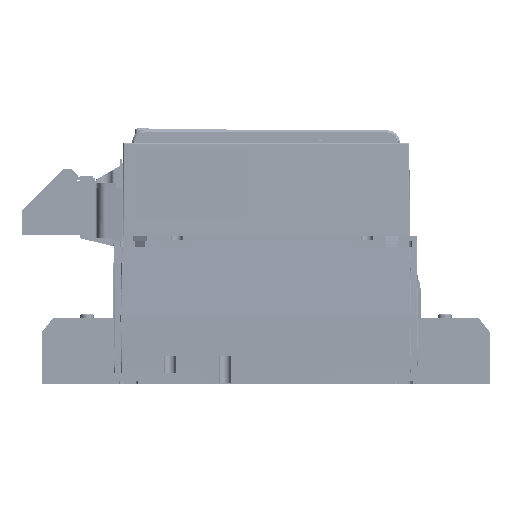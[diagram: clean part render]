
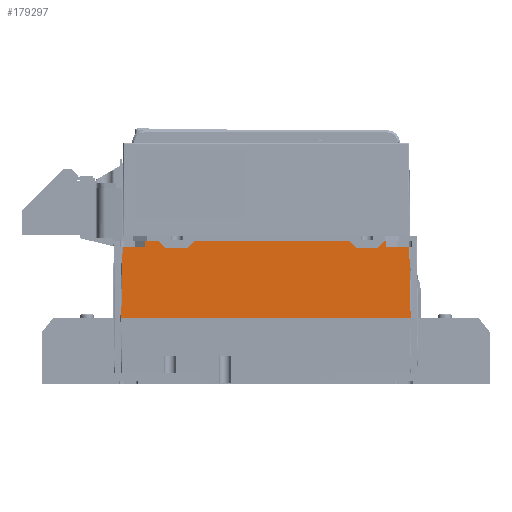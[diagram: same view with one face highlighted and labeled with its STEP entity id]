
A CAD part, front view. The second image highlights one B-rep face of the part: STEP entity #179297.
In plain terms, the highlighted planar face has unit normal (0, -1, 0.019).
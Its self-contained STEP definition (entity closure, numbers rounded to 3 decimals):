
#1234=DIRECTION('',(-1.,0.,0.));
#1235=VECTOR('',#1234,16.65);
#1236=CARTESIAN_POINT('',(201.9,-138.988,52.));
#1237=LINE('',#1236,#1235);
#9893=DIRECTION('',(1.,0.,0.));
#9894=VECTOR('',#9893,210.8);
#9895=CARTESIAN_POINT('',(-7.9,-140.,
0.));
#9896=LINE('',#9895,#9894);
#9897=DIRECTION('',(0.019,0.019,1.));
#9898=VECTOR('',#9897,52.019);
#9899=CARTESIAN_POINT('',(-7.9,-140.,
0.));
#9900=LINE('',#9899,#9898);
#9901=DIRECTION('',(0.019,-0.019,-1.));
#9902=VECTOR('',#9901,52.019);
#9903=CARTESIAN_POINT('',(201.9,-138.988,52.));
#9904=LINE('',#9903,#9902);
#10333=DIRECTION('',(-1.,0.,0.));
#10334=VECTOR('',#10333,16.65);
#10335=CARTESIAN_POINT('',(9.75,-138.988,52.));
#10336=LINE('',#10335,#10334);
#10393=DIRECTION('',(-1.,0.,0.));
#10394=VECTOR('',#10393,9.75);
#10395=CARTESIAN_POINT('',(19.5,-138.9,56.5));
#10396=LINE('',#10395,#10394);
#10481=DIRECTION('',(-1.,0.,0.));
#10482=VECTOR('',#10481,112.5);
#10483=CARTESIAN_POINT('',(158.,-138.9,56.5));
#10484=LINE('',#10483,#10482);
#10493=DIRECTION('',(-0.707,0.014,0.707));
#10494=VECTOR('',#10493,7.072);
#10495=CARTESIAN_POINT('',(163.,-138.997,51.5));
#10496=LINE('',#10495,#10494);
#10585=DIRECTION('',(-1.,0.,0.));
#10586=VECTOR('',#10585,16.);
#10587=CARTESIAN_POINT('',(179.,-138.997,51.5));
#10588=LINE('',#10587,#10586);
#10718=DIRECTION('',(-0.707,-0.014,-0.707));
#10719=VECTOR('',#10718,7.072);
#10720=CARTESIAN_POINT('',(184.,-138.9,56.5));
#10721=LINE('',#10720,#10719);
#10734=DIRECTION('',(-1.,0.,0.));
#10735=VECTOR('',#10734,1.25);
#10736=CARTESIAN_POINT('',(185.25,-138.9,56.5));
#10737=LINE('',#10736,#10735);
#11048=DIRECTION('',(0.,0.019,1.));
#11049=VECTOR('',#11048,4.501);
#11050=CARTESIAN_POINT('',(185.25,-138.988,52.));
#11051=LINE('',#11050,#11049);
#11556=DIRECTION('',(-0.707,-0.014,-0.707));
#11557=VECTOR('',#11556,7.072);
#11558=CARTESIAN_POINT('',(45.5,-138.9,56.5));
#11559=LINE('',#11558,#11557);
#11679=DIRECTION('',(-1.,0.,0.));
#11680=VECTOR('',#11679,16.);
#11681=CARTESIAN_POINT('',(40.5,-138.997,51.5));
#11682=LINE('',#11681,#11680);
#11889=DIRECTION('',(-0.707,0.014,0.707));
#11890=VECTOR('',#11889,7.072);
#11891=CARTESIAN_POINT('',(24.5,-138.997,51.5));
#11892=LINE('',#11891,#11890);
#12066=DIRECTION('',(0.,-0.019,-1.));
#12067=VECTOR('',#12066,4.501);
#12068=CARTESIAN_POINT('',(9.75,-138.9,56.5));
#12069=LINE('',#12068,#12067);
#130795=CARTESIAN_POINT('',(158.,-138.9,56.5));
#130796=CARTESIAN_POINT('',(45.5,-138.9,56.5));
#130797=VERTEX_POINT('',#130795);
#130798=VERTEX_POINT('',#130796);
#130808=CARTESIAN_POINT('',(185.25,-138.9,56.5));
#130810=VERTEX_POINT('',#130808);
#130811=CARTESIAN_POINT('',(184.,-138.9,56.5));
#130812=VERTEX_POINT('',#130811);
#130829=CARTESIAN_POINT('',(19.5,-138.9,56.5));
#130830=CARTESIAN_POINT('',(9.75,-138.9,56.5));
#130831=VERTEX_POINT('',#130829);
#130832=VERTEX_POINT('',#130830);
#130883=CARTESIAN_POINT('',(163.,-138.997,51.5));
#130884=VERTEX_POINT('',#130883);
#130887=CARTESIAN_POINT('',(9.75,-138.988,52.));
#130888=CARTESIAN_POINT('',(-6.9,-138.988,52.));
#130889=VERTEX_POINT('',#130887);
#130890=VERTEX_POINT('',#130888);
#130891=CARTESIAN_POINT('',(24.5,-138.997,51.5));
#130892=VERTEX_POINT('',#130891);
#130893=CARTESIAN_POINT('',(40.5,-138.997,51.5));
#130894=VERTEX_POINT('',#130893);
#130895=CARTESIAN_POINT('',(179.,-138.997,51.5));
#130896=VERTEX_POINT('',#130895);
#130897=CARTESIAN_POINT('',(185.25,-138.988,52.));
#130898=VERTEX_POINT('',#130897);
#130899=CARTESIAN_POINT('',(201.9,-138.988,52.));
#130900=VERTEX_POINT('',#130899);
#133418=CARTESIAN_POINT('',(-7.9,-140.,
0.));
#133419=CARTESIAN_POINT('',(202.9,-140.,
0.));
#133420=VERTEX_POINT('',#133418);
#133421=VERTEX_POINT('',#133419);
#179260=CARTESIAN_POINT('',(232.905,-140.,0.));
#179261=DIRECTION('',(0.,1.,-0.019));
#179262=DIRECTION('',(0.,0.019,1.));
#179263=AXIS2_PLACEMENT_3D('',#179260,#179261,#179262);
#179264=PLANE('',#179263);
#179265=ORIENTED_EDGE('',*,*,#179219,.F.);
#179267=ORIENTED_EDGE('',*,*,#179266,.T.);
#179269=ORIENTED_EDGE('',*,*,#179268,.F.);
#179271=ORIENTED_EDGE('',*,*,#179270,.F.);
#179273=ORIENTED_EDGE('',*,*,#179272,.F.);
#179275=ORIENTED_EDGE('',*,*,#179274,.F.);
#179277=ORIENTED_EDGE('',*,*,#179276,.F.);
#179279=ORIENTED_EDGE('',*,*,#179278,.F.);
#179281=ORIENTED_EDGE('',*,*,#179280,.F.);
#179283=ORIENTED_EDGE('',*,*,#179282,.F.);
#179285=ORIENTED_EDGE('',*,*,#179284,.F.);
#179287=ORIENTED_EDGE('',*,*,#179286,.F.);
#179289=ORIENTED_EDGE('',*,*,#179288,.F.);
#179291=ORIENTED_EDGE('',*,*,#179290,.F.);
#179292=ORIENTED_EDGE('',*,*,#168320,.F.);
#179294=ORIENTED_EDGE('',*,*,#179293,.T.);
#179295=EDGE_LOOP('',(#179265,#179267,#179269,#179271,#179273,#179275,#179277,
#179279,#179281,#179283,#179285,#179287,#179289,#179291,#179292,#179294));
#179296=FACE_OUTER_BOUND('',#179295,.F.);
#179297=ADVANCED_FACE('',(#179296),#179264,.F.);
#168320=EDGE_CURVE('',#130900,#130898,#1237,.T.);
#179219=EDGE_CURVE('',#133420,#133421,#9896,.T.);
#179266=EDGE_CURVE('',#133420,#130890,#9900,.T.);
#179268=EDGE_CURVE('',#130889,#130890,#10336,.T.);
#179270=EDGE_CURVE('',#130832,#130889,#12069,.T.);
#179272=EDGE_CURVE('',#130831,#130832,#10396,.T.);
#179274=EDGE_CURVE('',#130892,#130831,#11892,.T.);
#179276=EDGE_CURVE('',#130894,#130892,#11682,.T.);
#179278=EDGE_CURVE('',#130798,#130894,#11559,.T.);
#179280=EDGE_CURVE('',#130797,#130798,#10484,.T.);
#179282=EDGE_CURVE('',#130884,#130797,#10496,.T.);
#179284=EDGE_CURVE('',#130896,#130884,#10588,.T.);
#179286=EDGE_CURVE('',#130812,#130896,#10721,.T.);
#179288=EDGE_CURVE('',#130810,#130812,#10737,.T.);
#179290=EDGE_CURVE('',#130898,#130810,#11051,.T.);
#179293=EDGE_CURVE('',#130900,#133421,#9904,.T.);
